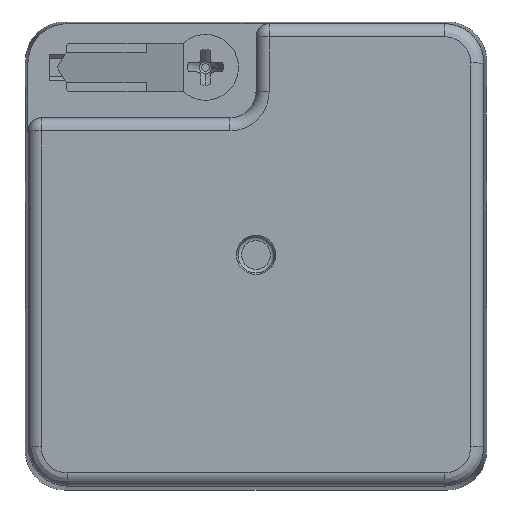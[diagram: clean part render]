
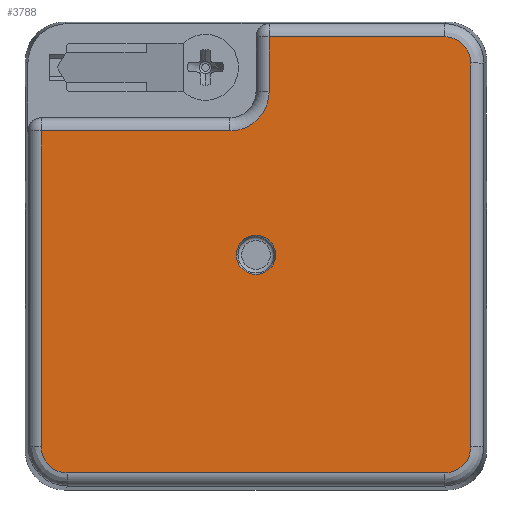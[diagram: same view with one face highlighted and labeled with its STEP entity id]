
A CAD part, top view. The second image highlights one B-rep face of the part: STEP entity #3788.
In plain terms, the highlighted planar face has unit normal (0, 0, 1) as drawn and (0, 0, -1) by its records, which use the part's own axes.
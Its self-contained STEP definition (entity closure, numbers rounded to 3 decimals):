
#2515=ELLIPSE('',#22579,2.,2.);
#2516=ELLIPSE('',#22580,2.,2.);
#2517=ELLIPSE('',#22581,2.,2.);
#2707=FACE_BOUND('',#6609,.T.);
#2708=FACE_BOUND('',#6610,.T.);
#3788=ADVANCED_FACE('',(#2707,#2708),#4552,.T.);
#4552=PLANE('',#22583);
#6609=EDGE_LOOP('',(#13931,#13932,#13933,#13934,#13935,#13936,#13937,#13938,
#13939,#13940));
#6610=EDGE_LOOP('',(#13941));
#8218=LINE('',#33517,#9969);
#8219=LINE('',#33519,#9970);
#8220=LINE('',#33523,#9971);
#8221=LINE('',#33527,#9972);
#8222=LINE('',#33531,#9973);
#8223=LINE('',#33533,#9974);
#9969=VECTOR('',#26871,1.);
#9970=VECTOR('',#26872,1.);
#9971=VECTOR('',#26875,1.);
#9972=VECTOR('',#26878,1.);
#9973=VECTOR('',#26881,1.);
#9974=VECTOR('',#26882,1.);
#13931=ORIENTED_EDGE('',*,*,#19671,.T.);
#13932=ORIENTED_EDGE('',*,*,#19672,.T.);
#13933=ORIENTED_EDGE('',*,*,#19673,.T.);
#13934=ORIENTED_EDGE('',*,*,#19674,.T.);
#13935=ORIENTED_EDGE('',*,*,#19675,.T.);
#13936=ORIENTED_EDGE('',*,*,#19676,.T.);
#13937=ORIENTED_EDGE('',*,*,#19677,.T.);
#13938=ORIENTED_EDGE('',*,*,#19678,.T.);
#13939=ORIENTED_EDGE('',*,*,#19679,.T.);
#13940=ORIENTED_EDGE('',*,*,#19680,.T.);
#13941=ORIENTED_EDGE('',*,*,#19681,.T.);
#17386=VERTEX_POINT('',#33515);
#17387=VERTEX_POINT('',#33516);
#17388=VERTEX_POINT('',#33518);
#17389=VERTEX_POINT('',#33520);
#17390=VERTEX_POINT('',#33522);
#17391=VERTEX_POINT('',#33524);
#17392=VERTEX_POINT('',#33526);
#17393=VERTEX_POINT('',#33528);
#17394=VERTEX_POINT('',#33530);
#17395=VERTEX_POINT('',#33532);
#17396=VERTEX_POINT('',#33535);
#19671=EDGE_CURVE('',#17386,#17387,#21151,.T.);
#19672=EDGE_CURVE('',#17387,#17388,#8218,.T.);
#19673=EDGE_CURVE('',#17388,#17389,#8219,.T.);
#19674=EDGE_CURVE('',#17389,#17390,#2515,.T.);
#19675=EDGE_CURVE('',#17390,#17391,#8220,.T.);
#19676=EDGE_CURVE('',#17391,#17392,#2516,.T.);
#19677=EDGE_CURVE('',#17392,#17393,#8221,.T.);
#19678=EDGE_CURVE('',#17393,#17394,#2517,.T.);
#19679=EDGE_CURVE('',#17394,#17395,#8222,.T.);
#19680=EDGE_CURVE('',#17395,#17386,#8223,.T.);
#19681=EDGE_CURVE('',#17396,#17396,#21152,.T.);
#21151=CIRCLE('',#22578,3.);
#21152=CIRCLE('',#22582,1.5);
#22578=AXIS2_PLACEMENT_3D('',#33514,#26869,#26870);
#22579=AXIS2_PLACEMENT_3D('',#33521,#26873,#26874);
#22580=AXIS2_PLACEMENT_3D('',#33525,#26876,#26877);
#22581=AXIS2_PLACEMENT_3D('',#33529,#26879,#26880);
#22582=AXIS2_PLACEMENT_3D('',#33534,#26883,#26884);
#22583=AXIS2_PLACEMENT_3D('',#33536,#26885,#26886);
#26869=DIRECTION('',(0.,0.,1.));
#26870=DIRECTION('',(-1.,0.,0.));
#26871=DIRECTION('',(-1.,0.,0.));
#26872=DIRECTION('',(0.,1.,0.));
#26873=DIRECTION('',(0.,0.,-1.));
#26874=DIRECTION('',(-0.707,0.707,0.));
#26875=DIRECTION('',(1.,0.,0.));
#26876=DIRECTION('',(0.,0.,-1.));
#26877=DIRECTION('',(-0.707,-0.707,0.));
#26878=DIRECTION('',(0.,-1.,0.));
#26879=DIRECTION('',(0.,0.,-1.));
#26880=DIRECTION('',(-0.707,0.707,0.));
#26881=DIRECTION('',(-1.,0.,0.));
#26882=DIRECTION('',(0.,1.,0.));
#26883=DIRECTION('',(0.,0.,1.));
#26884=DIRECTION('',(1.,0.,0.));
#26885=DIRECTION('',(0.,0.,-1.));
#26886=DIRECTION('',(1.,0.,0.));
#33514=CARTESIAN_POINT('',(-2.,-12.45,-50.3));
#33515=CARTESIAN_POINT('',(1.,-12.45,-50.3));
#33516=CARTESIAN_POINT('',(-2.,-9.45,-50.3));
#33517=CARTESIAN_POINT('',(17.85,-9.45,-50.3));
#33518=CARTESIAN_POINT('',(-16.385,-9.45,-50.3));
#33519=CARTESIAN_POINT('',(-16.385,17.85,-50.3));
#33520=CARTESIAN_POINT('',(-16.385,14.635,-50.3));
#33521=CARTESIAN_POINT('',(-14.385,14.635,-50.3));
#33522=CARTESIAN_POINT('',(-14.385,16.635,-50.3));
#33523=CARTESIAN_POINT('',(17.85,16.635,-50.3));
#33524=CARTESIAN_POINT('',(14.385,16.635,-50.3));
#33525=CARTESIAN_POINT('',(14.385,14.635,-50.3));
#33526=CARTESIAN_POINT('',(16.385,14.635,-50.3));
#33527=CARTESIAN_POINT('',(16.385,17.85,-50.3));
#33528=CARTESIAN_POINT('',(16.385,-14.635,-50.3));
#33529=CARTESIAN_POINT('',(14.385,-14.635,-50.3));
#33530=CARTESIAN_POINT('',(14.385,-16.635,-50.3));
#33531=CARTESIAN_POINT('',(17.85,-16.635,-50.3));
#33532=CARTESIAN_POINT('',(1.,-16.635,-50.3));
#33533=CARTESIAN_POINT('',(1.,17.85,-50.3));
#33534=CARTESIAN_POINT('',(0.,0.,-50.3));
#33535=CARTESIAN_POINT('',(1.5,0.,-50.3));
#33536=CARTESIAN_POINT('',(17.85,17.85,-50.3));
